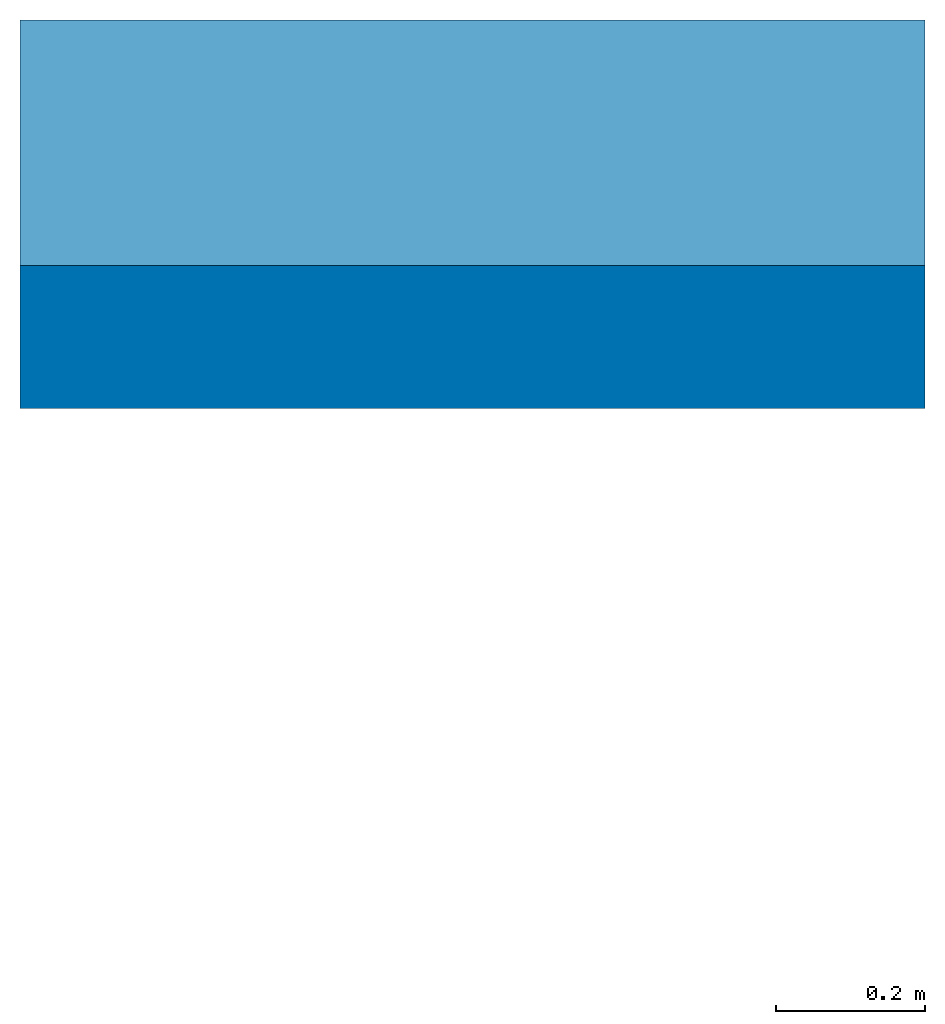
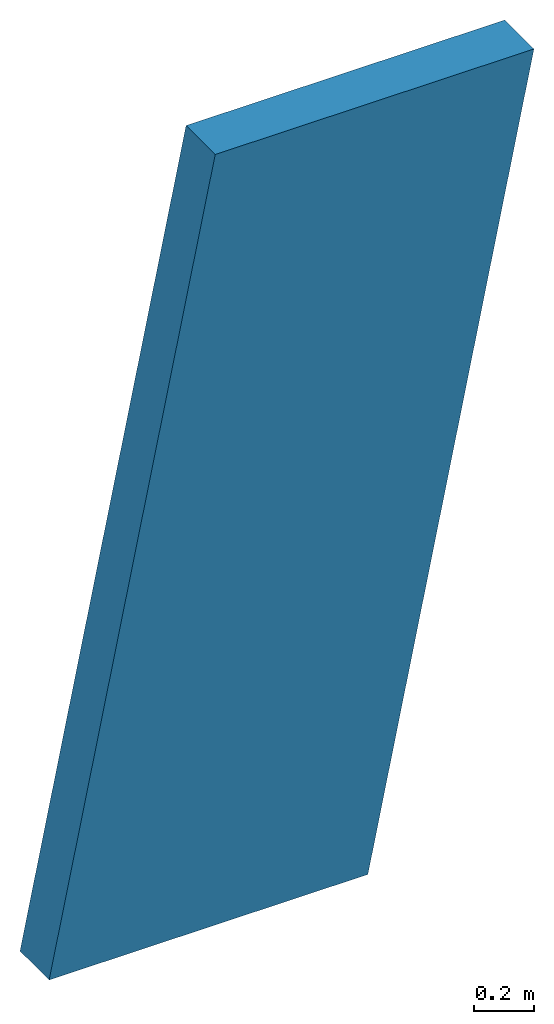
# One storey: 1 wall.
"""IFC2X3 building model written with IfcOpenShell, lengths in millimetres."""

from ifc_helpers import new_model, entity, si_unit, converted_unit, derived_unit, direction, frame, origin, origin_with_axes, place, context, subcontext, project, spatial, faceted_brep, material, layer, layer_set, type_object, element, save


model = new_model("IFC2X3")

# Units and contexts
model_context = context("Model", 3, precision=0.01, world=origin(), true_north=direction((6.12303176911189e-17, 1.0)))
plan_context = context("Plan", 3, precision=1e-05, world=origin_with_axes())
body_context = subcontext(model_context, "Body", "Model", "MODEL_VIEW")
ifc_project = project(units=[converted_unit("PLANEANGLEUNIT", "DEGREE", entity("IfcPositiveLengthMeasure", 0.0174532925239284), si_unit("PLANEANGLEUNIT", "RADIAN"), dimensions=[0, 0, 0, 0, 0, 0, 0]), si_unit("AREAUNIT", "SQUARE_METRE"), si_unit("LENGTHUNIT", "METRE", prefix="MILLI"), si_unit("MASSUNIT", "GRAM", prefix="KILO"), si_unit("POWERUNIT", "WATT"), si_unit("PRESSUREUNIT", "PASCAL"), si_unit("FORCEUNIT", "NEWTON", prefix="KILO"), si_unit("ELECTRICVOLTAGEUNIT", "VOLT"), si_unit("ELECTRICCURRENTUNIT", "AMPERE"), si_unit("THERMODYNAMICTEMPERATUREUNIT", "DEGREE_CELSIUS"), si_unit("TIMEUNIT", "SECOND"), si_unit("VOLUMEUNIT", "CUBIC_METRE"), derived_unit("LINEARVELOCITYUNIT", [(si_unit("LENGTHUNIT", "METRE"), 1), (si_unit("TIMEUNIT", "SECOND"), -1)]), derived_unit("VOLUMETRICFLOWRATEUNIT", [(si_unit("VOLUMEUNIT", "CUBIC_METRE"), 1), (si_unit("TIMEUNIT", "SECOND"), -1)]), derived_unit("THERMALTRANSMITTANCEUNIT", [(si_unit("POWERUNIT", "WATT"), 1), (si_unit("THERMODYNAMICTEMPERATUREUNIT", "KELVIN"), -1), (si_unit("AREAUNIT", "SQUARE_METRE"), -1)]), derived_unit("SOUNDPRESSUREUNIT", [(si_unit("PRESSUREUNIT", "PASCAL"), 1)])], contexts=[model_context, plan_context])

# Site, building, storey
site_placement = place(None, frame((2314154.5009392, 1029894.10887124, 0.0), z_axis=(0.0, 0.0, 1.0), x_axis=(1.0, 0.0, 0.0)))
site = spatial("IfcSite", under=ifc_project, at=site_placement, Name="Default", CompositionType="ELEMENT")
building_placement = place(site_placement, origin_with_axes())
building = spatial("IfcBuilding", under=site, at=building_placement, CompositionType="ELEMENT")
storey_placement = place(building_placement, frame((0.0, 0.0, 15370.0), z_axis=(0.0, 0.0, 1.0), x_axis=(1.0, 0.0, 0.0)))
storey = spatial("IfcBuildingStorey", under=building, at=storey_placement, Name="XX - C +15,37 TA E2", CompositionType="ELEMENT", Elevation=15370.0)

# Wall
ifc_material_1 = material(Name="Værnes_Flis 05")
ifc_layer_1 = layer(ifc_material_1, 10.0)
ifc_material_2 = material(Name="Værnes_Gipsplate")
ifc_layer_2 = layer(ifc_material_2, 13.0)
ifc_layer_3 = layer(ifc_material_2, 13.0)
ifc_material_3 = material(Name="Værnes_Stålstender")
ifc_layer_4 = layer(ifc_material_3, 150.0)
ifc_layer_set = layer_set([ifc_layer_1, ifc_layer_2, ifc_layer_3, ifc_layer_4], Name="Basic Wall:242_Værnes Innervegg 77_150mm")
wall_type = type_object("IfcWallType", Name="Basic Wall:242_Værnes Innervegg 77_150mm", PredefinedType="NOTDEFINED", material=ifc_layer_set)
wall_placement = place(storey_placement, frame((101784.336509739, -39918.2947492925, -6050.73255784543), z_axis=(0.0, 0.0, 1.0), x_axis=(0.0, 1.0, 0.0)))
element("IfcWall", 1, at=wall_placement, inside=storey, type_object=wall_type, Name="Basic Wall:242_Værnes Innervegg 77_150mm", ObjectType="Basic Wall:242_Værnes Innervegg 77_150mm", context=body_context, shape_type="Brep", body=[
    faceted_brep([(435.96206873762, 0.0, 4000.73255784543), (435.962068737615, -1217.74908553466, 4000.73255784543), (1534.95387431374, -1217.74908553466, 0.0), (1534.95387431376, 0.0, 0.0), (628.852121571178, -1217.74908553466, 4000.73255784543), (628.852121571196, 0.0, 4000.73255784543), (1727.84392714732, 0.0, 0.0), (1727.8439271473, -1217.74908553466, 0.0)], [[[0, 1, 2, 3]], [[4, 5, 6, 7]], [[5, 0, 3, 6]], [[1, 4, 7, 2]], [[3, 2, 7, 6]], [[5, 4, 1, 0]]], orient=[[False], [False], [False], [False], [False], [False]]),
])

save(model, "model.ifc")
